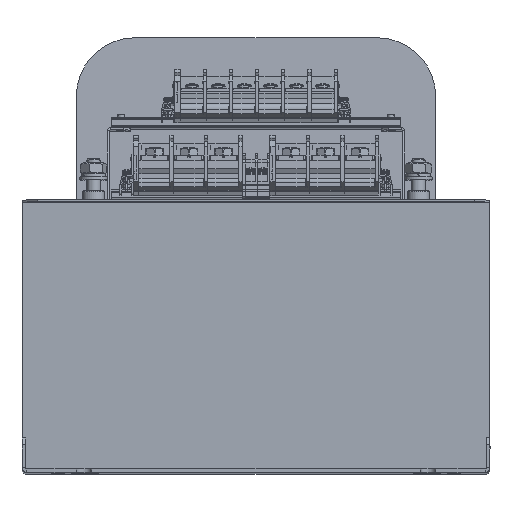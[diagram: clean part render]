
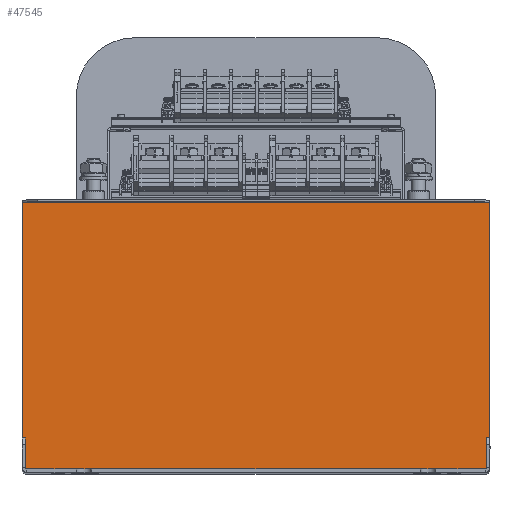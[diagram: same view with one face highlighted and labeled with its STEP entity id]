
A CAD part, top view. The second image highlights one B-rep face of the part: STEP entity #47545.
In plain terms, the highlighted planar face has unit normal (0, 0, 1).
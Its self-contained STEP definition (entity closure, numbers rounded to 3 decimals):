
#47352=CARTESIAN_POINT('',(-170.0,193.609,3.1));
#47353=VERTEX_POINT('',#47352);
#47360=CARTESIAN_POINT('',(170.0,193.609,3.1));
#47361=VERTEX_POINT('',#47360);
#47362=CARTESIAN_POINT('',(170.0,193.609,3.1));
#47363=DIRECTION('',(-1.0,0.0,0.0));
#47364=VECTOR('',#47363,340.0);
#47365=LINE('',#47362,#47364);
#47366=EDGE_CURVE('',#47361,#47353,#47365,.T.);
#47410=CARTESIAN_POINT('',(170.0,0.,3.1));
#47411=VERTEX_POINT('',#47410);
#47412=CARTESIAN_POINT('',(170.0,193.609,3.1));
#47413=DIRECTION('',(0.0,-1.0,0.0));
#47414=VECTOR('',#47413,193.609);
#47415=LINE('',#47412,#47414);
#47416=EDGE_CURVE('',#47361,#47411,#47415,.T.);
#47451=CARTESIAN_POINT('',(-170.0,0.,3.1));
#47452=VERTEX_POINT('',#47451);
#47459=CARTESIAN_POINT('',(-170.0,0.,3.1));
#47460=DIRECTION('',(0.0,1.0,0.0));
#47461=VECTOR('',#47460,193.609);
#47462=LINE('',#47459,#47461);
#47463=EDGE_CURVE('',#47452,#47353,#47462,.T.);
#47524=CARTESIAN_POINT('',(-170.0,0.,3.1));
#47525=DIRECTION('',(1.0,0.0,0.0));
#47526=VECTOR('',#47525,340.0);
#47527=LINE('',#47524,#47526);
#47528=EDGE_CURVE('',#47452,#47411,#47527,.T.);
#47534=CARTESIAN_POINT('',(0.0,195.111,3.1));
#47535=DIRECTION('',(0.0,0.0,1.0));
#47536=DIRECTION('',(1.0,0.0,0.0));
#47537=AXIS2_PLACEMENT_3D('',#47534,#47535,#47536);
#47538=PLANE('',#47537);
#47539=ORIENTED_EDGE('',*,*,#47366,.T.);
#47540=ORIENTED_EDGE('',*,*,#47463,.F.);
#47541=ORIENTED_EDGE('',*,*,#47528,.T.);
#47542=ORIENTED_EDGE('',*,*,#47416,.F.);
#47543=EDGE_LOOP('',(#47539,#47540,#47541,#47542));
#47544=FACE_OUTER_BOUND('',#47543,.T.);
#47545=ADVANCED_FACE('',(#47544),#47538,.T.);
